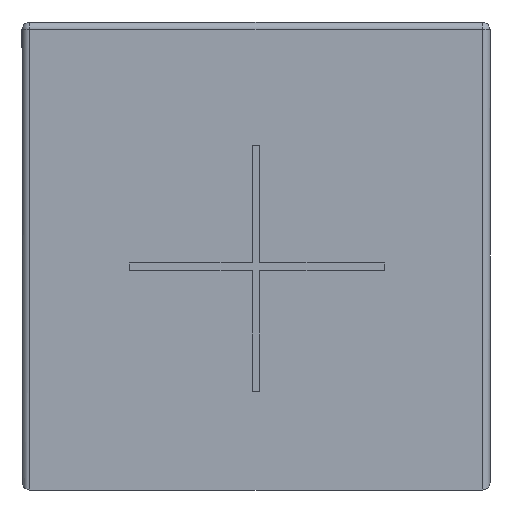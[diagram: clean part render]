
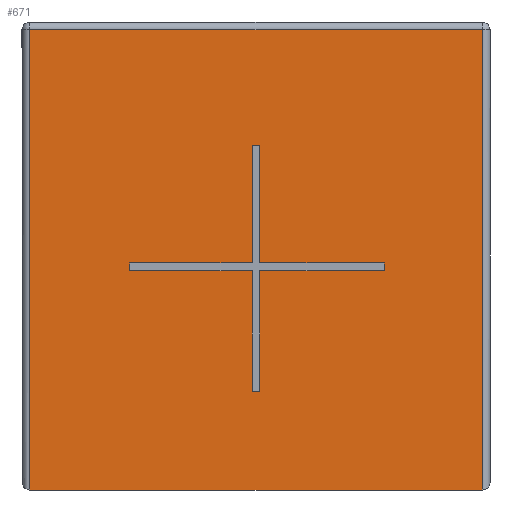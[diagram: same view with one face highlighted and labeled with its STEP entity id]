
A CAD part, front view. The second image highlights one B-rep face of the part: STEP entity #671.
In plain terms, the highlighted planar face has unit normal (0, -1, 0).
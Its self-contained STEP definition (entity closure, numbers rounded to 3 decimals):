
#14 = VECTOR ( 'NONE', #572, 1000. ) ;
#41 = ORIENTED_EDGE ( 'NONE', *, *, #1010, .T. ) ;
#50 = VERTEX_POINT ( 'NONE', #1765 ) ;
#57 = VECTOR ( 'NONE', #840, 1000. ) ;
#68 = EDGE_CURVE ( 'NONE', #1439, #50, #1101, .T. ) ;
#77 = VERTEX_POINT ( 'NONE', #441 ) ;
#83 = CARTESIAN_POINT ( 'NONE',  ( -3., -10., 0. ) ) ;
#103 = LINE ( 'NONE', #1850, #889 ) ;
#134 = DIRECTION ( 'NONE',  ( 0., 1., 0. ) ) ;
#150 = DIRECTION ( 'NONE',  ( -1., 0., 0. ) ) ;
#152 = LINE ( 'NONE', #463, #1860 ) ;
#155 = DIRECTION ( 'NONE',  ( 0., 0., 1. ) ) ;
#164 = CARTESIAN_POINT ( 'NONE',  ( -0.05, -10., 1.266 ) ) ;
#179 = VECTOR ( 'NONE', #415, 1000. ) ;
#182 = LINE ( 'NONE', #1925, #867 ) ;
#191 = ORIENTED_EDGE ( 'NONE', *, *, #586, .T. ) ;
#206 = LINE ( 'NONE', #233, #434 ) ;
#208 = VECTOR ( 'NONE', #887, 1000. ) ;
#212 = ORIENTED_EDGE ( 'NONE', *, *, #1504, .T. ) ;
#228 = LINE ( 'NONE', #423, #14 ) ;
#233 = CARTESIAN_POINT ( 'NONE',  ( 2.9, -10., 6. ) ) ;
#261 = EDGE_LOOP ( 'NONE', ( #1366, #599, #1148, #980, #900, #191, #212, #1866, #1544, #824, #1587, #885 ) ) ;
#280 = ORIENTED_EDGE ( 'NONE', *, *, #1653, .T. ) ;
#308 = VECTOR ( 'NONE', #1324, 1000. ) ;
#324 = CARTESIAN_POINT ( 'NONE',  ( -0.05, -10., 2.911 ) ) ;
#346 = EDGE_CURVE ( 'NONE', #859, #534, #1004, .T. ) ;
#405 = DIRECTION ( 'NONE',  ( 0., 0., 1. ) ) ;
#415 = DIRECTION ( 'NONE',  ( 0., 0., -1. ) ) ;
#423 = CARTESIAN_POINT ( 'NONE',  ( -1.619, -10., 2.811 ) ) ;
#434 = VECTOR ( 'NONE', #405, 1000. ) ;
#441 = CARTESIAN_POINT ( 'NONE',  ( -2.9, -10., 0. ) ) ;
#463 = CARTESIAN_POINT ( 'NONE',  ( -0.05, -10., 1.266 ) ) ;
#481 = LINE ( 'NONE', #1259, #862 ) ;
#496 = CARTESIAN_POINT ( 'NONE',  ( 0.05, -10., 2.811 ) ) ;
#518 = CARTESIAN_POINT ( 'NONE',  ( 1.643, -10., 2.911 ) ) ;
#534 = VERTEX_POINT ( 'NONE', #1460 ) ;
#561 = LINE ( 'NONE', #1645, #179 ) ;
#563 = FACE_OUTER_BOUND ( 'NONE', #1821, .T. ) ;
#567 = VERTEX_POINT ( 'NONE', #1921 ) ;
#572 = DIRECTION ( 'NONE',  ( -1., 0., 0. ) ) ;
#575 = EDGE_CURVE ( 'NONE', #666, #1439, #228, .T. ) ;
#583 = PLANE ( 'NONE',  #1485 ) ;
#586 = EDGE_CURVE ( 'NONE', #567, #1132, #182, .T. ) ;
#587 = CARTESIAN_POINT ( 'NONE',  ( 0.05, -10., 4.416 ) ) ;
#591 = VERTEX_POINT ( 'NONE', #1936 ) ;
#599 = ORIENTED_EDGE ( 'NONE', *, *, #575, .T. ) ;
#631 = DIRECTION ( 'NONE',  ( -1., 0., 0. ) ) ;
#636 = CARTESIAN_POINT ( 'NONE',  ( 0.05, -10., 1.266 ) ) ;
#644 = VERTEX_POINT ( 'NONE', #760 ) ;
#666 = VERTEX_POINT ( 'NONE', #1804 ) ;
#670 = FACE_BOUND ( 'NONE', #261, .T. ) ;
#671 = ADVANCED_FACE ( 'NONE', ( #563, #670 ), #583, .F. ) ;
#700 = EDGE_CURVE ( 'NONE', #946, #644, #1667, .T. ) ;
#737 = CARTESIAN_POINT ( 'NONE',  ( -3., -10., 6. ) ) ;
#760 = CARTESIAN_POINT ( 'NONE',  ( -2.9, -10., 5.9 ) ) ;
#772 = LINE ( 'NONE', #794, #1762 ) ;
#785 = CARTESIAN_POINT ( 'NONE',  ( -1.619, -10., 2.911 ) ) ;
#788 = DIRECTION ( 'NONE',  ( 1., 0., 0. ) ) ;
#789 = EDGE_CURVE ( 'NONE', #1717, #881, #103, .T. ) ;
#794 = CARTESIAN_POINT ( 'NONE',  ( 0.05, -10., 2.811 ) ) ;
#817 = EDGE_CURVE ( 'NONE', #50, #1408, #1928, .T. ) ;
#824 = ORIENTED_EDGE ( 'NONE', *, *, #1432, .T. ) ;
#838 = VECTOR ( 'NONE', #1254, 1000. ) ;
#840 = DIRECTION ( 'NONE',  ( 1., 0., 0. ) ) ;
#851 = DIRECTION ( 'NONE',  ( 0., 0., -1. ) ) ;
#859 = VERTEX_POINT ( 'NONE', #496 ) ;
#862 = VECTOR ( 'NONE', #1859, 1000. ) ;
#863 = CARTESIAN_POINT ( 'NONE',  ( -1.619, -10., 2.811 ) ) ;
#867 = VECTOR ( 'NONE', #1022, 1000. ) ;
#881 = VERTEX_POINT ( 'NONE', #518 ) ;
#885 = ORIENTED_EDGE ( 'NONE', *, *, #1317, .T. ) ;
#887 = DIRECTION ( 'NONE',  ( -1., 0., 0. ) ) ;
#889 = VECTOR ( 'NONE', #788, 1000. ) ;
#900 = ORIENTED_EDGE ( 'NONE', *, *, #1094, .T. ) ;
#910 = VECTOR ( 'NONE', #1457, 1000. ) ;
#945 = DIRECTION ( 'NONE',  ( 0., 0., -1. ) ) ;
#946 = VERTEX_POINT ( 'NONE', #1281 ) ;
#954 = ORIENTED_EDGE ( 'NONE', *, *, #1020, .T. ) ;
#963 = CARTESIAN_POINT ( 'NONE',  ( -1.619, -10., 2.811 ) ) ;
#980 = ORIENTED_EDGE ( 'NONE', *, *, #817, .T. ) ;
#1004 = LINE ( 'NONE', #636, #1416 ) ;
#1010 = EDGE_CURVE ( 'NONE', #1409, #946, #206, .T. ) ;
#1020 = EDGE_CURVE ( 'NONE', #77, #1409, #1276, .T. ) ;
#1022 = DIRECTION ( 'NONE',  ( 1., 0., 0. ) ) ;
#1029 = LINE ( 'NONE', #1772, #1078 ) ;
#1041 = CARTESIAN_POINT ( 'NONE',  ( -3., -10., 5.9 ) ) ;
#1078 = VECTOR ( 'NONE', #851, 1000. ) ;
#1094 = EDGE_CURVE ( 'NONE', #1408, #567, #1273, .T. ) ;
#1101 = LINE ( 'NONE', #863, #308 ) ;
#1132 = VERTEX_POINT ( 'NONE', #587 ) ;
#1148 = ORIENTED_EDGE ( 'NONE', *, *, #68, .T. ) ;
#1150 = CARTESIAN_POINT ( 'NONE',  ( -0.05, -10., 2.911 ) ) ;
#1158 = EDGE_CURVE ( 'NONE', #881, #591, #561, .T. ) ;
#1254 = DIRECTION ( 'NONE',  ( 0., 0., 1. ) ) ;
#1259 = CARTESIAN_POINT ( 'NONE',  ( 0.05, -10., 2.911 ) ) ;
#1263 = DIRECTION ( 'NONE',  ( 1., 0., 0. ) ) ;
#1273 = LINE ( 'NONE', #1150, #910 ) ;
#1276 = LINE ( 'NONE', #83, #57 ) ;
#1281 = CARTESIAN_POINT ( 'NONE',  ( 2.9, -10., 5.9 ) ) ;
#1317 = EDGE_CURVE ( 'NONE', #534, #1858, #152, .T. ) ;
#1324 = DIRECTION ( 'NONE',  ( 0., 0., 1. ) ) ;
#1366 = ORIENTED_EDGE ( 'NONE', *, *, #1933, .T. ) ;
#1408 = VERTEX_POINT ( 'NONE', #324 ) ;
#1409 = VERTEX_POINT ( 'NONE', #1867 ) ;
#1416 = VECTOR ( 'NONE', #945, 1000. ) ;
#1432 = EDGE_CURVE ( 'NONE', #591, #859, #772, .T. ) ;
#1439 = VERTEX_POINT ( 'NONE', #963 ) ;
#1457 = DIRECTION ( 'NONE',  ( 0., 0., 1. ) ) ;
#1460 = CARTESIAN_POINT ( 'NONE',  ( 0.05, -10., 1.266 ) ) ;
#1480 = ORIENTED_EDGE ( 'NONE', *, *, #700, .T. ) ;
#1485 = AXIS2_PLACEMENT_3D ( 'NONE', #737, #134, #155 ) ;
#1491 = VECTOR ( 'NONE', #1263, 1000. ) ;
#1504 = EDGE_CURVE ( 'NONE', #1132, #1717, #481, .T. ) ;
#1544 = ORIENTED_EDGE ( 'NONE', *, *, #1158, .T. ) ;
#1554 = CARTESIAN_POINT ( 'NONE',  ( -0.05, -10., 1.266 ) ) ;
#1587 = ORIENTED_EDGE ( 'NONE', *, *, #346, .T. ) ;
#1645 = CARTESIAN_POINT ( 'NONE',  ( 1.643, -10., 2.811 ) ) ;
#1653 = EDGE_CURVE ( 'NONE', #644, #77, #1029, .T. ) ;
#1667 = LINE ( 'NONE', #1041, #208 ) ;
#1717 = VERTEX_POINT ( 'NONE', #1915 ) ;
#1762 = VECTOR ( 'NONE', #631, 1000. ) ;
#1765 = CARTESIAN_POINT ( 'NONE',  ( -1.619, -10., 2.911 ) ) ;
#1772 = CARTESIAN_POINT ( 'NONE',  ( -2.9, -10., 6. ) ) ;
#1804 = CARTESIAN_POINT ( 'NONE',  ( -0.05, -10., 2.811 ) ) ;
#1821 = EDGE_LOOP ( 'NONE', ( #1480, #280, #954, #41 ) ) ;
#1850 = CARTESIAN_POINT ( 'NONE',  ( 0.05, -10., 2.911 ) ) ;
#1858 = VERTEX_POINT ( 'NONE', #164 ) ;
#1859 = DIRECTION ( 'NONE',  ( 0., 0., -1. ) ) ;
#1860 = VECTOR ( 'NONE', #150, 1000. ) ;
#1866 = ORIENTED_EDGE ( 'NONE', *, *, #789, .T. ) ;
#1867 = CARTESIAN_POINT ( 'NONE',  ( 2.9, -10., 0. ) ) ;
#1915 = CARTESIAN_POINT ( 'NONE',  ( 0.05, -10., 2.911 ) ) ;
#1921 = CARTESIAN_POINT ( 'NONE',  ( -0.05, -10., 4.416 ) ) ;
#1925 = CARTESIAN_POINT ( 'NONE',  ( -0.05, -10., 4.416 ) ) ;
#1928 = LINE ( 'NONE', #785, #1491 ) ;
#1933 = EDGE_CURVE ( 'NONE', #1858, #666, #1950, .T. ) ;
#1936 = CARTESIAN_POINT ( 'NONE',  ( 1.643, -10., 2.811 ) ) ;
#1950 = LINE ( 'NONE', #1554, #838 ) ;
